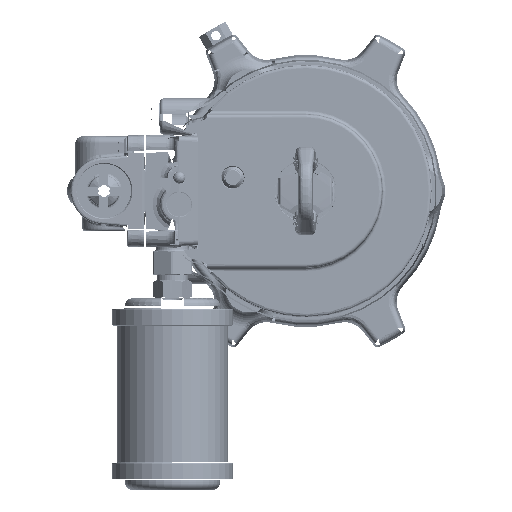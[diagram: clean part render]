
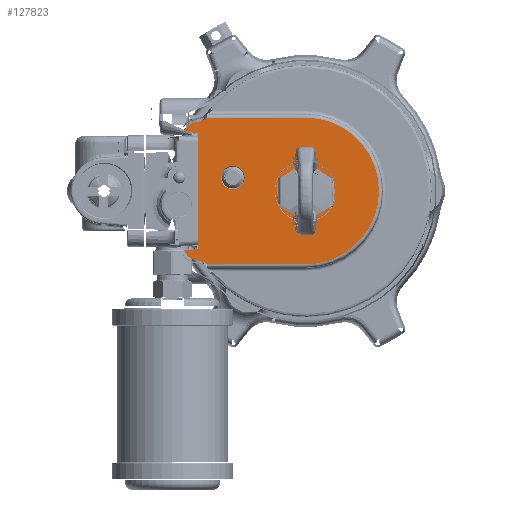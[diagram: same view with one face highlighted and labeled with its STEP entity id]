
A CAD part, left-side view. The second image highlights one B-rep face of the part: STEP entity #127823.
In plain terms, the highlighted planar face has unit normal (-1, 0, 0).
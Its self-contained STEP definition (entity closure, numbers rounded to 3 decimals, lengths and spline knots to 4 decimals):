
#117508=DIRECTION('',(0.,0.,1.));
#117509=VECTOR('',#117508,2.933);
#117510=CARTESIAN_POINT('',(-6.99,2.8,-1.4665));
#117511=LINE('',#117510,#117509);
#117512=CARTESIAN_POINT('',(-6.99,2.8,1.4665));
#117513=CARTESIAN_POINT('',(-6.99,2.8,1.4706));
#117514=CARTESIAN_POINT('',(-6.99,2.8011,
1.4789));
#117515=CARTESIAN_POINT('',(-6.99,2.8054,
1.4921));
#117516=CARTESIAN_POINT('',(-6.99,2.812,
1.5055));
#117517=CARTESIAN_POINT('',(-6.99,2.8172,
1.5147));
#117518=CARTESIAN_POINT('',(-6.99,2.82,1.5194));
#117520=DIRECTION('',(0.,0.999,0.052));
#117521=VECTOR('',#117520,0.3491);
#117522=CARTESIAN_POINT('',(-6.99,2.82,1.5194));
#117523=LINE('',#117522,#117521);
#117524=CARTESIAN_POINT('',(-6.99,0.,0.));
#117525=DIRECTION('',(1.,0.,0.));
#117526=DIRECTION('',(0.,0.9,0.437));
#117527=AXIS2_PLACEMENT_3D('',#117524,#117525,#117526);
#117529=CARTESIAN_POINT('',(-6.99,3.123,1.6284));
#117530=CARTESIAN_POINT('',(-6.99,3.1135,1.6465));
#117531=CARTESIAN_POINT('',(-6.99,3.0913,1.68));
#117532=CARTESIAN_POINT('',(-6.99,3.048,1.723));
#117533=CARTESIAN_POINT('',(-6.99,2.9967,1.756));
#117534=CARTESIAN_POINT('',(-6.99,2.9594,1.7703));
#117535=CARTESIAN_POINT('',(-6.99,2.9397,1.7755));
#117537=DIRECTION('',(0.,-0.966,0.259));
#117538=VECTOR('',#117537,0.258);
#117539=CARTESIAN_POINT('',(-6.99,2.9397,1.7755));
#117540=LINE('',#117539,#117538);
#117541=CARTESIAN_POINT('',(-6.99,2.6906,1.8423));
#117542=CARTESIAN_POINT('',(-6.99,2.6758,
1.8463));
#117543=CARTESIAN_POINT('',(-6.99,2.6478,
1.857));
#117544=CARTESIAN_POINT('',(-6.99,2.6096,
1.882));
#117545=CARTESIAN_POINT('',(-6.99,2.5887,
1.9029));
#117546=CARTESIAN_POINT('',(-6.99,2.5792,
1.9146));
#117548=CARTESIAN_POINT('',(-6.99,0.,0.));
#117549=DIRECTION('',(1.,0.,0.));
#117550=DIRECTION('',(0.,0.,1.));
#117551=AXIS2_PLACEMENT_3D('',#117548,#117549,#117550);
#117553=CARTESIAN_POINT('',(-6.99,2.5792,
-1.9146));
#117554=CARTESIAN_POINT('',(-6.99,2.5888,
-1.9028));
#117555=CARTESIAN_POINT('',(-6.99,2.6098,
-1.8818));
#117556=CARTESIAN_POINT('',(-6.99,2.6482,
-1.8569));
#117557=CARTESIAN_POINT('',(-6.99,2.6759,
-1.8462));
#117558=CARTESIAN_POINT('',(-6.99,2.6906,-1.8423));
#117560=DIRECTION('',(0.,0.966,0.259));
#117561=VECTOR('',#117560,0.258);
#117562=CARTESIAN_POINT('',(-6.99,2.6906,-1.8423));
#117563=LINE('',#117562,#117561);
#117564=CARTESIAN_POINT('',(-6.99,2.9397,-1.7755));
#117565=CARTESIAN_POINT('',(-6.99,2.9594,-1.7703));
#117566=CARTESIAN_POINT('',(-6.99,2.9967,-1.756));
#117567=CARTESIAN_POINT('',(-6.99,3.048,-1.723));
#117568=CARTESIAN_POINT('',(-6.99,3.0913,-1.68));
#117569=CARTESIAN_POINT('',(-6.99,3.1135,-1.6465));
#117570=CARTESIAN_POINT('',(-6.99,3.123,-1.6284));
#117572=CARTESIAN_POINT('',(-6.99,0.,0.));
#117573=DIRECTION('',(1.,0.,0.));
#117574=DIRECTION('',(0.,0.887,-0.462));
#117575=AXIS2_PLACEMENT_3D('',#117572,#117573,#117574);
#117577=DIRECTION('',(0.,-0.999,0.052));
#117578=VECTOR('',#117577,0.349);
#117579=CARTESIAN_POINT('',(-6.99,3.1686,-1.5377));
#117580=LINE('',#117579,#117578);
#117581=CARTESIAN_POINT('',(-6.99,2.82,-1.5195));
#117582=CARTESIAN_POINT('',(-6.99,2.8173,
-1.5147));
#117583=CARTESIAN_POINT('',(-6.99,2.812,
-1.5055));
#117584=CARTESIAN_POINT('',(-6.99,2.8055,
-1.4921));
#117585=CARTESIAN_POINT('',(-6.99,2.8011,
-1.4789));
#117586=CARTESIAN_POINT('',(-6.99,2.8,-1.4706));
#117587=CARTESIAN_POINT('',(-6.99,2.8,-1.4665));
#117589=CARTESIAN_POINT('',(-6.99,1.9,0.35));
#117590=DIRECTION('',(1.,0.,0.));
#117591=DIRECTION('',(0.,1.,0.));
#117592=AXIS2_PLACEMENT_3D('',#117589,#117590,#117591);
#117594=CARTESIAN_POINT('',(-6.99,1.9,0.35));
#117595=DIRECTION('',(1.,0.,0.));
#117596=DIRECTION('',(0.,-1.,0.));
#117597=AXIS2_PLACEMENT_3D('',#117594,#117595,#117596);
#117599=CARTESIAN_POINT('',(-6.99,0.,0.));
#117600=DIRECTION('',(-1.,0.,0.));
#117601=DIRECTION('',(0.,-1.,0.));
#117602=AXIS2_PLACEMENT_3D('',#117599,#117600,#117601);
#117604=CARTESIAN_POINT('',(-6.99,0.,0.));
#117605=DIRECTION('',(-1.,0.,0.));
#117606=DIRECTION('',(0.,1.,0.));
#117607=AXIS2_PLACEMENT_3D('',#117604,#117605,#117606);
#120300=DIRECTION('',(0.,-1.,
0.));
#120301=VECTOR('',#120300,2.5792);
#120302=CARTESIAN_POINT('',(-6.99,2.5792,
-1.9146));
#120303=LINE('',#120302,#120301);
#120314=DIRECTION('',(0.,1.,0.));
#120315=VECTOR('',#120314,2.5792);
#120316=CARTESIAN_POINT('',(-6.99,0.,1.9146));
#120317=LINE('',#120316,#120315);
#125705=CARTESIAN_POINT('',(-6.99,2.2054,0.35));
#125706=CARTESIAN_POINT('',(-6.99,1.5946,0.35));
#125707=VERTEX_POINT('',#125705);
#125708=VERTEX_POINT('',#125706);
#125769=CARTESIAN_POINT('',(-6.99,0.,1.9146));
#125770=CARTESIAN_POINT('',(-6.99,0.,-1.9146));
#125771=VERTEX_POINT('',#125769);
#125772=VERTEX_POINT('',#125770);
#126258=VERTEX_POINT('',#117535);
#126259=VERTEX_POINT('',#117529);
#126262=CARTESIAN_POINT('',(-6.99,2.6906,1.8423));
#126263=VERTEX_POINT('',#126262);
#126266=VERTEX_POINT('',#117546);
#126277=VERTEX_POINT('',#117558);
#126278=VERTEX_POINT('',#117553);
#126281=CARTESIAN_POINT('',(-6.99,2.9397,-1.7755));
#126282=VERTEX_POINT('',#126281);
#126285=VERTEX_POINT('',#117570);
#126313=CARTESIAN_POINT('',(-6.99,3.1686,-1.5377));
#126314=VERTEX_POINT('',#126313);
#126333=CARTESIAN_POINT('',(-6.99,3.1686,1.5377));
#126334=VERTEX_POINT('',#126333);
#126336=CARTESIAN_POINT('',(-6.99,2.82,-1.5195));
#126337=VERTEX_POINT('',#126336);
#126338=CARTESIAN_POINT('',(-6.99,2.82,1.5194));
#126339=VERTEX_POINT('',#126338);
#126340=CARTESIAN_POINT('',(-6.99,2.8,1.4665));
#126341=CARTESIAN_POINT('',(-6.99,2.8,-1.4665));
#126342=VERTEX_POINT('',#126340);
#126343=VERTEX_POINT('',#126341);
#127697=CARTESIAN_POINT('',(-6.99,0.6545,0.));
#127698=CARTESIAN_POINT('',(-6.99,-0.6545,0.));
#127699=VERTEX_POINT('',#127697);
#127700=VERTEX_POINT('',#127698);
#127772=CARTESIAN_POINT('',(-6.99,0.,0.));
#127773=DIRECTION('',(1.,0.,0.));
#127774=DIRECTION('',(0.,0.,-1.));
#127775=AXIS2_PLACEMENT_3D('',#127772,#127773,#127774);
#127776=PLANE('',#127775);
#127778=ORIENTED_EDGE('',*,*,#127777,.T.);
#127780=ORIENTED_EDGE('',*,*,#127779,.T.);
#127782=ORIENTED_EDGE('',*,*,#127781,.T.);
#127784=ORIENTED_EDGE('',*,*,#127783,.T.);
#127786=ORIENTED_EDGE('',*,*,#127785,.T.);
#127788=ORIENTED_EDGE('',*,*,#127787,.T.);
#127790=ORIENTED_EDGE('',*,*,#127789,.T.);
#127792=ORIENTED_EDGE('',*,*,#127791,.F.);
#127794=ORIENTED_EDGE('',*,*,#127793,.T.);
#127796=ORIENTED_EDGE('',*,*,#127795,.F.);
#127798=ORIENTED_EDGE('',*,*,#127797,.T.);
#127800=ORIENTED_EDGE('',*,*,#127799,.T.);
#127802=ORIENTED_EDGE('',*,*,#127801,.T.);
#127804=ORIENTED_EDGE('',*,*,#127803,.T.);
#127806=ORIENTED_EDGE('',*,*,#127805,.T.);
#127808=ORIENTED_EDGE('',*,*,#127807,.T.);
#127809=EDGE_LOOP('',(#127778,#127780,#127782,#127784,#127786,#127788,#127790,
#127792,#127794,#127796,#127798,#127800,#127802,#127804,#127806,#127808));
#127810=FACE_OUTER_BOUND('',#127809,.F.);
#127812=ORIENTED_EDGE('',*,*,#127811,.F.);
#127814=ORIENTED_EDGE('',*,*,#127813,.F.);
#127815=EDGE_LOOP('',(#127812,#127814));
#127816=FACE_BOUND('',#127815,.F.);
#127818=ORIENTED_EDGE('',*,*,#127817,.T.);
#127820=ORIENTED_EDGE('',*,*,#127819,.T.);
#127821=EDGE_LOOP('',(#127818,#127820));
#127822=FACE_BOUND('',#127821,.F.);
#127823=ADVANCED_FACE('',(#127810,#127816,#127822),#127776,.F.);
#117519=B_SPLINE_CURVE_WITH_KNOTS('',3,(#117512,#117513,#117514,#117515,#117516,
#117517,#117518),.UNSPECIFIED.,.F.,.F.,(4,1,1,1,4),(0.,0.25,0.5,0.75,
1.),.UNSPECIFIED.);
#117528=CIRCLE('',#117527,3.522);
#117536=B_SPLINE_CURVE_WITH_KNOTS('',3,(#117529,#117530,#117531,#117532,#117533,
#117534,#117535),.UNSPECIFIED.,.F.,.F.,(4,1,1,1,4),(0.,0.25,0.5,0.75,
1.),.UNSPECIFIED.);
#117547=B_SPLINE_CURVE_WITH_KNOTS('',3,(#117541,#117542,#117543,#117544,#117545,
#117546),.UNSPECIFIED.,.F.,.F.,(4,1,1,4),(0.,0.3333,
0.6667,1.),.UNSPECIFIED.);
#117552=CIRCLE('',#117551,1.9146);
#117559=B_SPLINE_CURVE_WITH_KNOTS('',3,(#117553,#117554,#117555,#117556,#117557,
#117558),.UNSPECIFIED.,.F.,.F.,(4,1,1,4),(0.,0.3333,
0.6667,1.),.UNSPECIFIED.);
#117571=B_SPLINE_CURVE_WITH_KNOTS('',3,(#117564,#117565,#117566,#117567,#117568,
#117569,#117570),.UNSPECIFIED.,.F.,.F.,(4,1,1,1,4),(0.,0.25,0.5,0.75,
1.),.UNSPECIFIED.);
#117576=CIRCLE('',#117575,3.522);
#117588=B_SPLINE_CURVE_WITH_KNOTS('',3,(#117581,#117582,#117583,#117584,#117585,
#117586,#117587),.UNSPECIFIED.,.F.,.F.,(4,1,1,1,4),(0.,0.25,0.5,0.75,
1.),.UNSPECIFIED.);
#117593=CIRCLE('',#117592,0.3054);
#117598=CIRCLE('',#117597,0.3054);
#117603=CIRCLE('',#117602,0.6545);
#117608=CIRCLE('',#117607,0.6545);
#127777=EDGE_CURVE('',#126343,#126342,#117511,.T.);
#127779=EDGE_CURVE('',#126342,#126339,#117519,.T.);
#127781=EDGE_CURVE('',#126339,#126334,#117523,.T.);
#127783=EDGE_CURVE('',#126334,#126259,#117528,.T.);
#127785=EDGE_CURVE('',#126259,#126258,#117536,.T.);
#127787=EDGE_CURVE('',#126258,#126263,#117540,.T.);
#127789=EDGE_CURVE('',#126263,#126266,#117547,.T.);
#127791=EDGE_CURVE('',#125771,#126266,#120317,.T.);
#127793=EDGE_CURVE('',#125771,#125772,#117552,.T.);
#127795=EDGE_CURVE('',#126278,#125772,#120303,.T.);
#127797=EDGE_CURVE('',#126278,#126277,#117559,.T.);
#127799=EDGE_CURVE('',#126277,#126282,#117563,.T.);
#127801=EDGE_CURVE('',#126282,#126285,#117571,.T.);
#127803=EDGE_CURVE('',#126285,#126314,#117576,.T.);
#127805=EDGE_CURVE('',#126314,#126337,#117580,.T.);
#127807=EDGE_CURVE('',#126337,#126343,#117588,.T.);
#127811=EDGE_CURVE('',#125707,#125708,#117593,.T.);
#127813=EDGE_CURVE('',#125708,#125707,#117598,.T.);
#127817=EDGE_CURVE('',#127700,#127699,#117603,.T.);
#127819=EDGE_CURVE('',#127699,#127700,#117608,.T.);
